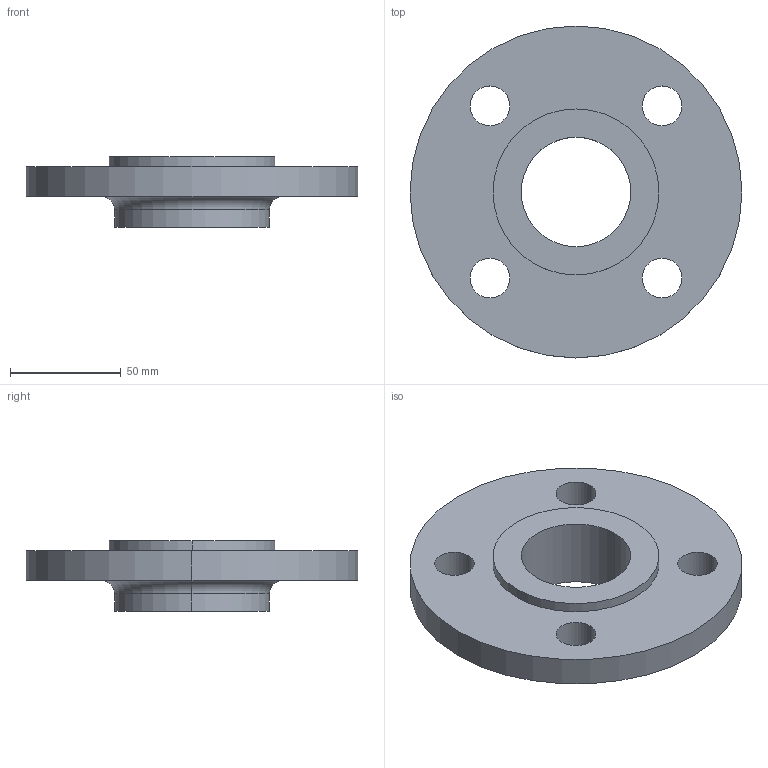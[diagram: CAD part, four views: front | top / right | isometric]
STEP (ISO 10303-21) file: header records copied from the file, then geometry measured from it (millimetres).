
FILE_DESCRIPTION (( 'STEP AP214' ), '1' );
FILE_NAME ('PN40 DN40 Type 12 - Type E Face.STEP', '2018-12-30T01:41:05', ( '' ), ( '' ), 'SwSTEP 2.0', 'SolidWorks 2019', '' );
FILE_SCHEMA (( 'AUTOMOTIVE_DESIGN' ));
Length unit declared in the file: millimetre
Products named in the file (1): PN40 DN40 Type 12 - Type E Face
Bounding box: 150 x 150 x 32 mm (x, y, z)
Volume: 238764.6 mm3; surface area: 47438.7 mm2
Topology: 1 solids, 1 shells, 22 faces, 52 edges, 34 vertices
Faces by surface type: cylinder 16, plane 4, torus 2
Entity records: 710 total; most frequent: DIRECTION 134, CARTESIAN_POINT 109, ORIENTED_EDGE 104, AXIS2_PLACEMENT_3D 59, EDGE_CURVE 52, CIRCLE 36, VERTEX_POINT 34, EDGE_LOOP 34
